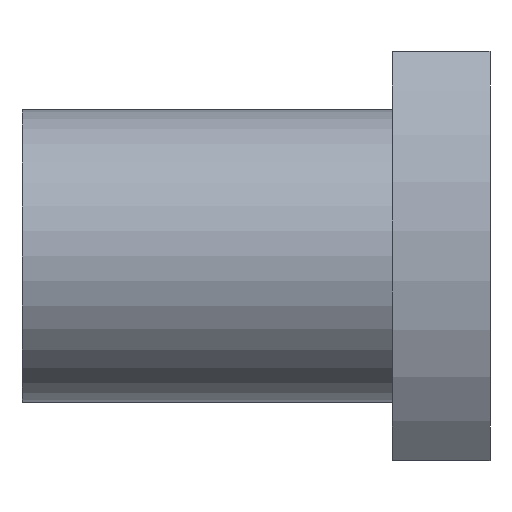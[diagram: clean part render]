
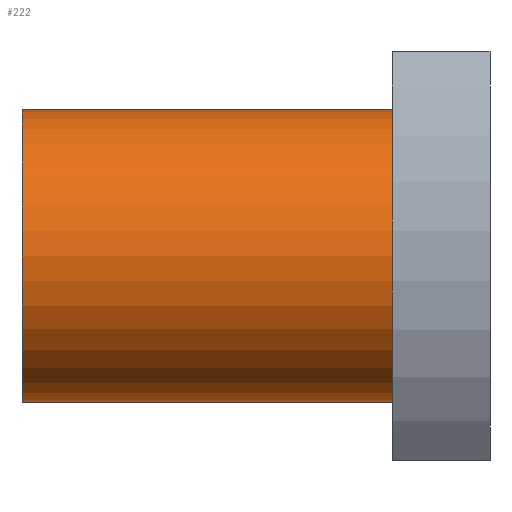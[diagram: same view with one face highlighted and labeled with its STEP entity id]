
A CAD part, front view. The second image highlights one B-rep face of the part: STEP entity #222.
In plain terms, the highlighted cylindrical face has radius 7.5 mm (diameter 15 mm), a full revolution.
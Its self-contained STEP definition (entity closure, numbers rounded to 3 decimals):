
#51=ORIENTED_EDGE('',*,*,#99,.T.);
#52=ORIENTED_EDGE('',*,*,#100,.T.);
#99=EDGE_CURVE('',#123,#123,#141,.T.);
#100=EDGE_CURVE('',#124,#124,#142,.F.);
#123=VERTEX_POINT('',#372);
#124=VERTEX_POINT('',#374);
#141=CIRCLE('',#257,7.5);
#142=CIRCLE('',#258,7.5);
#156=EDGE_LOOP('',(#51));
#157=EDGE_LOOP('',(#52));
#186=FACE_BOUND('',#156,.T.);
#187=FACE_BOUND('',#157,.T.);
#212=CYLINDRICAL_SURFACE('',#256,7.5);
#222=ADVANCED_FACE('',(#186,#187),#212,.T.);
#256=AXIS2_PLACEMENT_3D('',#370,#300,#301);
#257=AXIS2_PLACEMENT_3D('',#371,#302,#303);
#258=AXIS2_PLACEMENT_3D('',#373,#304,#305);
#300=DIRECTION('',(1.,0.,0.));
#301=DIRECTION('',(0.,0.,-1.));
#302=DIRECTION('',(1.,0.,0.));
#303=DIRECTION('',(0.,0.,-1.));
#304=DIRECTION('',(1.,0.,0.));
#305=DIRECTION('',(0.,0.,-1.));
#370=CARTESIAN_POINT('',(-12.,0.,0.));
#371=CARTESIAN_POINT('',(-12.,0.,0.));
#372=CARTESIAN_POINT('',(-12.,0.,-7.5));
#373=CARTESIAN_POINT('',(7.,0.,0.));
#374=CARTESIAN_POINT('',(7.,0.,-7.5));
